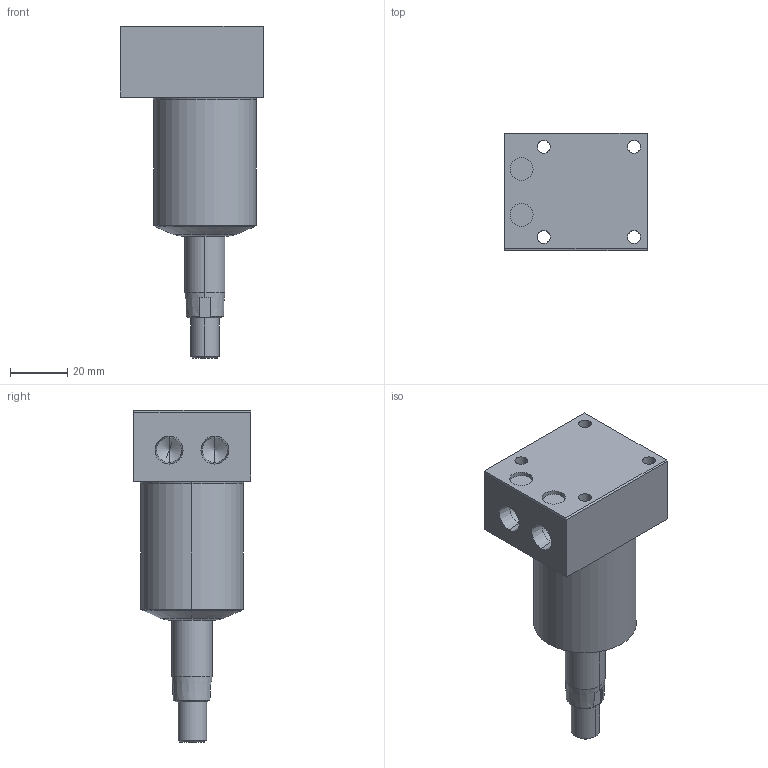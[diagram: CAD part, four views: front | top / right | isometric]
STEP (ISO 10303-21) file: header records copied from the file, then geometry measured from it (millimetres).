
FILE_DESCRIPTION (( 'STEP AP214' ), '1' );
FILE_NAME ('SB03-361-L.STEP', '2021-08-22T03:43:11', ( '' ), ( '' ), 'SwSTEP 2.0', 'SolidWorks 2019', '' );
FILE_SCHEMA (( 'AUTOMOTIVE_DESIGN' ));
Length unit declared in the file: millimetre
Products named in the file (3): SB03-361-L; 36-BM-BODY.; 36-PISTON
Assembly tree (2 placements, depth 2):
  SB03-361-L
    36-BM-BODY.
    36-PISTON
Bounding box: 50 x 41 x 116 mm (x, y, z)
Volume: 101172.1 mm3; surface area: 22066.6 mm2
Topology: 2 solids, 2 shells, 74 faces, 165 edges, 98 vertices
Faces by surface type: plane 28, cylinder 24, cone 22
Entity records: 2142 total; most frequent: DIRECTION 383, CARTESIAN_POINT 353, ORIENTED_EDGE 322, EDGE_CURVE 161, AXIS2_PLACEMENT_3D 147, VERTEX_POINT 98, VECTOR 89, LINE 89
